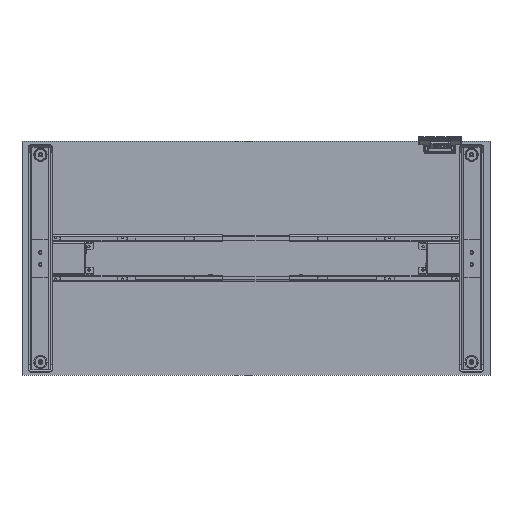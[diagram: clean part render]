
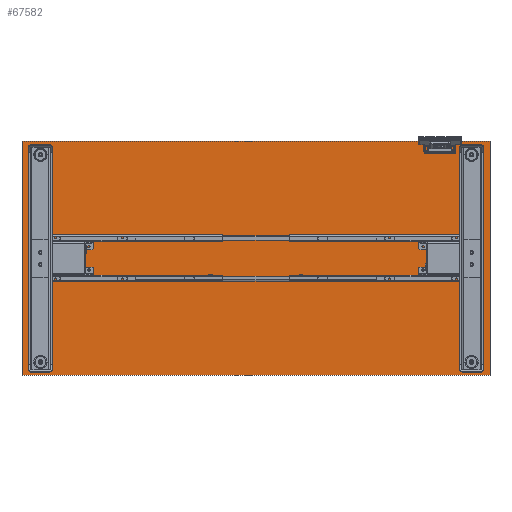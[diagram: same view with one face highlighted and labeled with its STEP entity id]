
A CAD part, front view. The second image highlights one B-rep face of the part: STEP entity #67582.
In plain terms, the highlighted planar face has unit normal (0, -1, 0).
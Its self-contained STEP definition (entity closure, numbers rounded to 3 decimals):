
#1638 = EDGE_CURVE ( 'NONE', #72199, #12727, #23128, .T. ) ;
#2451 = CARTESIAN_POINT ( 'NONE',  ( -700., -12.5, 350. ) ) ;
#9009 = LINE ( 'NONE', #111979, #88871 ) ;
#12727 = VERTEX_POINT ( 'NONE', #69002 ) ;
#19318 = CARTESIAN_POINT ( 'NONE',  ( 700., -12.5, 350. ) ) ;
#20184 = EDGE_CURVE ( 'NONE', #85925, #72199, #113549, .T. ) ;
#22519 = DIRECTION ( 'NONE',  ( 0., 0., -1. ) ) ;
#23128 = LINE ( 'NONE', #104002, #38699 ) ;
#25045 = CARTESIAN_POINT ( 'NONE',  ( 0., -12.5, 0. ) ) ;
#26686 = ORIENTED_EDGE ( 'NONE', *, *, #82137, .F. ) ;
#32252 = DIRECTION ( 'NONE',  ( 1., 0., 0. ) ) ;
#35570 = CARTESIAN_POINT ( 'NONE',  ( 700., -12.5, -350. ) ) ;
#38578 = VERTEX_POINT ( 'NONE', #2451 ) ;
#38699 = VECTOR ( 'NONE', #86602, 1000. ) ;
#39476 = FACE_OUTER_BOUND ( 'NONE', #52496, .T. ) ;
#39642 = VECTOR ( 'NONE', #22519, 1000. ) ;
#50828 = DIRECTION ( 'NONE',  ( 0., 0., 1. ) ) ;
#52010 = DIRECTION ( 'NONE',  ( 0., 1., 0. ) ) ;
#52496 = EDGE_LOOP ( 'NONE', ( #26686, #78346, #95991, #105368 ) ) ;
#54126 = EDGE_CURVE ( 'NONE', #38578, #85925, #9009, .T. ) ;
#66704 = CARTESIAN_POINT ( 'NONE',  ( -700., -12.5, -350. ) ) ;
#67582 = ADVANCED_FACE ( 'NONE', ( #39476 ), #75978, .F. ) ;
#69002 = CARTESIAN_POINT ( 'NONE',  ( -700., -12.5, -350. ) ) ;
#72199 = VERTEX_POINT ( 'NONE', #35570 ) ;
#75978 = PLANE ( 'NONE',  #82027 ) ;
#78346 = ORIENTED_EDGE ( 'NONE', *, *, #1638, .F. ) ;
#82027 = AXIS2_PLACEMENT_3D ( 'NONE', #25045, #52010, #50828 ) ;
#82137 = EDGE_CURVE ( 'NONE', #12727, #38578, #93089, .T. ) ;
#84687 = DIRECTION ( 'NONE',  ( 0., 0., 1. ) ) ;
#85925 = VERTEX_POINT ( 'NONE', #19318 ) ;
#86602 = DIRECTION ( 'NONE',  ( -1., 0., 0. ) ) ;
#88871 = VECTOR ( 'NONE', #32252, 1000. ) ;
#93089 = LINE ( 'NONE', #66704, #114923 ) ;
#95991 = ORIENTED_EDGE ( 'NONE', *, *, #20184, .F. ) ;
#104002 = CARTESIAN_POINT ( 'NONE',  ( -700., -12.5, -350. ) ) ;
#104578 = CARTESIAN_POINT ( 'NONE',  ( 700., -12.5, -350. ) ) ;
#105368 = ORIENTED_EDGE ( 'NONE', *, *, #54126, .F. ) ;
#111979 = CARTESIAN_POINT ( 'NONE',  ( -700., -12.5, 350. ) ) ;
#113549 = LINE ( 'NONE', #104578, #39642 ) ;
#114923 = VECTOR ( 'NONE', #84687, 1000. ) ;
